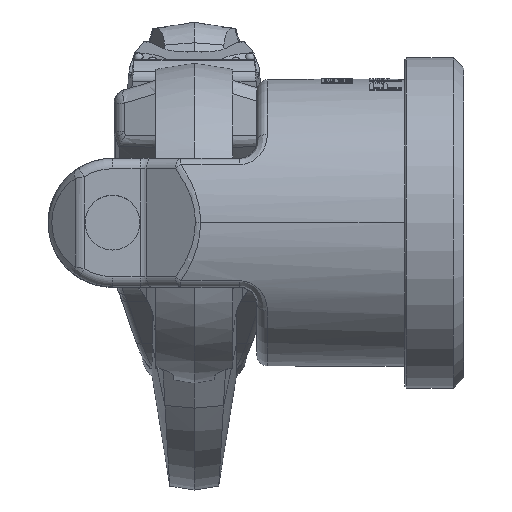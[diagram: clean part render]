
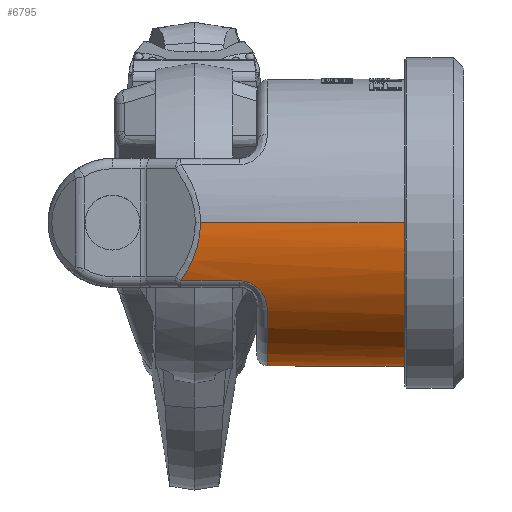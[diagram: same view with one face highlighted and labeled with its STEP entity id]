
A CAD part, top view. The second image highlights one B-rep face of the part: STEP entity #6795.
In plain terms, the highlighted cylindrical face has radius 41.25 mm (diameter 82.5 mm), a partial arc.
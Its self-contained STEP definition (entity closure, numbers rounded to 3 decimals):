
#6=CARTESIAN_POINT('',(105.5,0.,0.));
#7=DIRECTION('',(1.,0.,0.));
#8=DIRECTION('',(0.,0.,1.));
#9=AXIS2_PLACEMENT_3D('',#6,#7,#8);
#81=DIRECTION('',(1.,0.,0.));
#82=VECTOR('',#81,61.696);
#83=CARTESIAN_POINT('',(43.804,0.,
-41.25));
#84=LINE('',#83,#82);
#1639=CARTESIAN_POINT('',(55.,-16.716,37.711));
#1640=CARTESIAN_POINT('',(55.264,-16.716,37.711));
#1641=CARTESIAN_POINT('',(55.776,-16.744,37.699));
#1642=CARTESIAN_POINT('',(56.497,-16.857,37.649));
#1643=CARTESIAN_POINT('',(57.179,-17.031,37.57));
#1644=CARTESIAN_POINT('',(57.827,-17.261,37.465));
#1645=CARTESIAN_POINT('',(58.444,-17.545,37.333));
#1646=CARTESIAN_POINT('',(59.035,-17.882,37.173));
#1647=CARTESIAN_POINT('',(59.587,-18.264,36.987));
#1648=CARTESIAN_POINT('',(60.089,-18.675,36.782));
#1649=CARTESIAN_POINT('',(60.558,-19.125,36.55));
#1650=CARTESIAN_POINT('',(61.009,-19.633,36.28));
#1651=CARTESIAN_POINT('',(61.432,-20.195,35.971));
#1652=CARTESIAN_POINT('',(61.818,-20.809,35.619));
#1653=CARTESIAN_POINT('',(62.152,-21.454,35.234));
#1654=CARTESIAN_POINT('',(62.424,-22.104,34.83));
#1655=CARTESIAN_POINT('',(62.64,-22.756,34.409));
#1656=CARTESIAN_POINT('',(62.804,-23.406,33.969));
#1657=CARTESIAN_POINT('',(62.918,-24.055,33.513));
#1658=CARTESIAN_POINT('',(62.985,-24.701,33.04));
#1659=CARTESIAN_POINT('',(63.,-25.13,32.713));
#1660=CARTESIAN_POINT('',(63.,-25.343,32.547));
#1662=DIRECTION('',(1.,0.,0.));
#1663=VECTOR('',#1662,16.879);
#1664=CARTESIAN_POINT('',(38.121,-16.716,37.711));
#1665=LINE('',#1664,#1663);
#1666=CARTESIAN_POINT('',(43.804,0.,
41.25));
#1667=CARTESIAN_POINT('',(43.804,-0.774,
41.25));
#1668=CARTESIAN_POINT('',(43.733,-2.322,41.206));
#1669=CARTESIAN_POINT('',(43.426,-4.595,41.015));
#1670=CARTESIAN_POINT('',(42.9,-6.931,40.687));
#1671=CARTESIAN_POINT('',(42.123,-9.35,40.203));
#1672=CARTESIAN_POINT('',(41.036,-11.904,39.526));
#1673=CARTESIAN_POINT('',(39.632,-14.485,38.653));
#1674=CARTESIAN_POINT('',(38.637,-15.991,38.033));
#1675=CARTESIAN_POINT('',(38.121,-16.716,37.711));
#1677=DIRECTION('',(1.,0.,0.));
#1678=VECTOR('',#1677,61.696);
#1679=CARTESIAN_POINT('',(43.804,0.,
41.25));
#1680=LINE('',#1679,#1678);
#1681=CARTESIAN_POINT('',(38.121,-16.716,
-37.711));
#1682=CARTESIAN_POINT('',(38.683,-15.926,
-38.061));
#1683=CARTESIAN_POINT('',(39.72,-14.337,
-38.707));
#1684=CARTESIAN_POINT('',(41.038,-11.885,
-39.528));
#1685=CARTESIAN_POINT('',(42.05,-9.529,
-40.158));
#1686=CARTESIAN_POINT('',(42.818,-7.216,
-40.636));
#1687=CARTESIAN_POINT('',(43.366,-4.928,
-40.977));
#1688=CARTESIAN_POINT('',(43.721,-2.509,
-41.198));
#1689=CARTESIAN_POINT('',(43.804,-0.846,
-41.25));
#1690=CARTESIAN_POINT('',(43.804,0.,
-41.25));
#1692=DIRECTION('',(-1.,0.,0.));
#1693=VECTOR('',#1692,16.879);
#1694=CARTESIAN_POINT('',(55.,-16.716,
-37.711));
#1695=LINE('',#1694,#1693);
#1696=CARTESIAN_POINT('',(63.,-25.343,-32.547));
#1697=CARTESIAN_POINT('',(63.,-25.131,
-32.712));
#1698=CARTESIAN_POINT('',(62.985,-24.704,
-33.038));
#1699=CARTESIAN_POINT('',(62.919,-24.059,
-33.511));
#1700=CARTESIAN_POINT('',(62.805,-23.41,
-33.967));
#1701=CARTESIAN_POINT('',(62.642,-22.761,
-34.405));
#1702=CARTESIAN_POINT('',(62.427,-22.111,
-34.826));
#1703=CARTESIAN_POINT('',(62.156,-21.463,
-35.229));
#1704=CARTESIAN_POINT('',(61.825,-20.821,
-35.612));
#1705=CARTESIAN_POINT('',(61.44,-20.207,
-35.964));
#1706=CARTESIAN_POINT('',(61.014,-19.639,
-36.277));
#1707=CARTESIAN_POINT('',(60.557,-19.124,
-36.551));
#1708=CARTESIAN_POINT('',(60.081,-18.668,
-36.785));
#1709=CARTESIAN_POINT('',(59.576,-18.255,
-36.992));
#1710=CARTESIAN_POINT('',(59.023,-17.875,
-37.177));
#1711=CARTESIAN_POINT('',(58.436,-17.541,
-37.335));
#1712=CARTESIAN_POINT('',(57.82,-17.259,
-37.466));
#1713=CARTESIAN_POINT('',(57.174,-17.029,
-37.571));
#1714=CARTESIAN_POINT('',(56.493,-16.856,
-37.649));
#1715=CARTESIAN_POINT('',(55.773,-16.744,
-37.699));
#1716=CARTESIAN_POINT('',(55.263,-16.716,
-37.711));
#1717=CARTESIAN_POINT('',(55.,-16.716,
-37.711));
#1719=CARTESIAN_POINT('',(63.,0.,0.));
#1720=DIRECTION('',(1.,0.,0.));
#1721=DIRECTION('',(0.,-0.614,0.789));
#1722=AXIS2_PLACEMENT_3D('',#1719,#1720,#1721);
#4271=CARTESIAN_POINT('',(105.5,0.,-41.25));
#4272=CARTESIAN_POINT('',(105.5,0.,41.25));
#4273=VERTEX_POINT('',#4271);
#4274=VERTEX_POINT('',#4272);
#4275=CARTESIAN_POINT('',(43.804,0.,
-41.25));
#4276=VERTEX_POINT('',#4275);
#4277=CARTESIAN_POINT('',(43.804,0.,
41.25));
#4278=VERTEX_POINT('',#4277);
#4285=VERTEX_POINT('',#1639);
#4286=VERTEX_POINT('',#1660);
#4287=CARTESIAN_POINT('',(38.121,-16.716,37.711));
#4288=VERTEX_POINT('',#4287);
#4311=VERTEX_POINT('',#1696);
#4312=VERTEX_POINT('',#1717);
#4317=CARTESIAN_POINT('',(38.121,-16.716,
-37.711));
#4318=VERTEX_POINT('',#4317);
#6772=CARTESIAN_POINT('',(0.,0.,0.));
#6773=DIRECTION('',(1.,0.,0.));
#6774=DIRECTION('',(0.,0.,-1.));
#6775=AXIS2_PLACEMENT_3D('',#6772,#6773,#6774);
#6776=CYLINDRICAL_SURFACE('',#6775,41.25);
#6778=ORIENTED_EDGE('',*,*,#6777,.F.);
#6780=ORIENTED_EDGE('',*,*,#6779,.F.);
#6781=ORIENTED_EDGE('',*,*,#6646,.F.);
#6782=ORIENTED_EDGE('',*,*,#5087,.T.);
#6783=ORIENTED_EDGE('',*,*,#5062,.T.);
#6784=ORIENTED_EDGE('',*,*,#5084,.F.);
#6786=ORIENTED_EDGE('',*,*,#6785,.F.);
#6788=ORIENTED_EDGE('',*,*,#6787,.F.);
#6790=ORIENTED_EDGE('',*,*,#6789,.F.);
#6792=ORIENTED_EDGE('',*,*,#6791,.F.);
#6793=EDGE_LOOP('',(#6778,#6780,#6781,#6782,#6783,#6784,#6786,#6788,#6790,
#6792));
#6794=FACE_OUTER_BOUND('',#6793,.F.);
#6795=ADVANCED_FACE('',(#6794),#6776,.T.);
#10=CIRCLE('',#9,41.25);
#1661=B_SPLINE_CURVE_WITH_KNOTS('',3,(#1639,#1640,#1641,#1642,#1643,#1644,#1645,
#1646,#1647,#1648,#1649,#1650,#1651,#1652,#1653,#1654,#1655,#1656,#1657,#1658,
#1659,#1660),.UNSPECIFIED.,.F.,.F.,(4,1,1,1,1,1,1,1,1,1,1,1,1,1,1,1,1,1,1,4),(
0.,0.053,0.105,0.158,0.211,
0.263,0.316,0.368,0.421,
0.474,0.526,0.579,0.632,
0.684,0.737,0.789,0.842,
0.895,0.947,1.),.UNSPECIFIED.);
#1676=B_SPLINE_CURVE_WITH_KNOTS('',3,(#1666,#1667,#1668,#1669,#1670,#1671,#1672,
#1673,#1674,#1675),.UNSPECIFIED.,.F.,.F.,(4,1,1,1,1,1,1,4),(0.,
0.143,0.286,0.429,0.571,
0.714,0.857,1.),.UNSPECIFIED.);
#1691=B_SPLINE_CURVE_WITH_KNOTS('',3,(#1681,#1682,#1683,#1684,#1685,#1686,#1687,
#1688,#1689,#1690),.UNSPECIFIED.,.F.,.F.,(4,1,1,1,1,1,1,4),(0.,
0.143,0.286,0.429,0.571,
0.714,0.857,1.),.UNSPECIFIED.);
#1718=B_SPLINE_CURVE_WITH_KNOTS('',3,(#1696,#1697,#1698,#1699,#1700,#1701,#1702,
#1703,#1704,#1705,#1706,#1707,#1708,#1709,#1710,#1711,#1712,#1713,#1714,#1715,
#1716,#1717),.UNSPECIFIED.,.F.,.F.,(4,1,1,1,1,1,1,1,1,1,1,1,1,1,1,1,1,1,1,4),(
0.,0.053,0.105,0.158,0.211,
0.263,0.316,0.368,0.421,
0.474,0.526,0.579,0.632,
0.684,0.737,0.789,0.842,
0.895,0.947,1.),.UNSPECIFIED.);
#1723=CIRCLE('',#1722,41.25);
#5062=EDGE_CURVE('',#4274,#4273,#10,.T.);
#5084=EDGE_CURVE('',#4276,#4273,#84,.T.);
#5087=EDGE_CURVE('',#4278,#4274,#1680,.T.);
#6646=EDGE_CURVE('',#4278,#4288,#1676,.T.);
#6777=EDGE_CURVE('',#4285,#4286,#1661,.T.);
#6779=EDGE_CURVE('',#4288,#4285,#1665,.T.);
#6785=EDGE_CURVE('',#4318,#4276,#1691,.T.);
#6787=EDGE_CURVE('',#4312,#4318,#1695,.T.);
#6789=EDGE_CURVE('',#4311,#4312,#1718,.T.);
#6791=EDGE_CURVE('',#4286,#4311,#1723,.T.);
